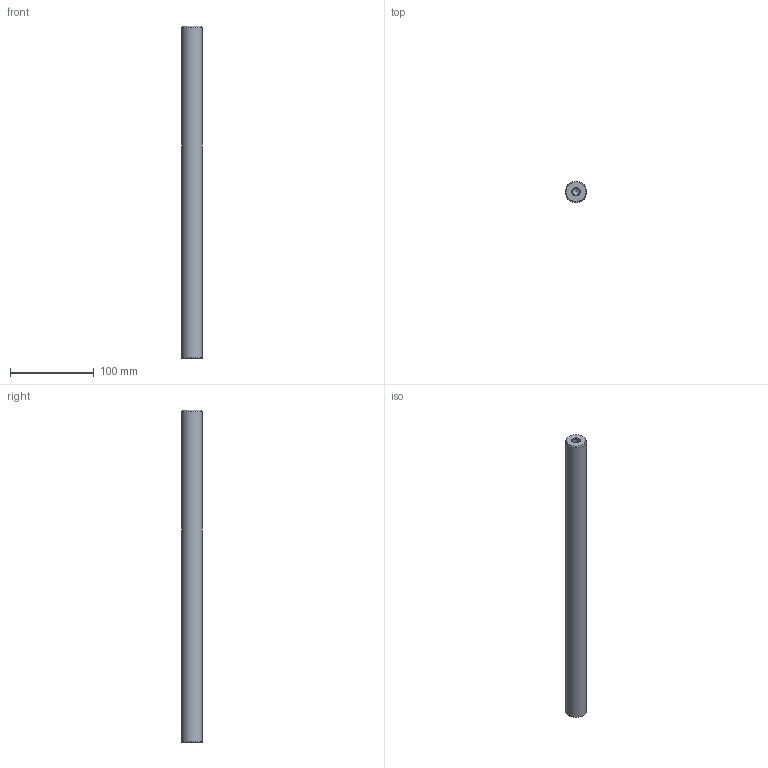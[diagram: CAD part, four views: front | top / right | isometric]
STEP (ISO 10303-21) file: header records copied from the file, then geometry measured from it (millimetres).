
FILE_DESCRIPTION( ( 'STEP AP214' ), '1' );
FILE_NAME( 'U:/Etudes/Top Solid/BIBLIO_Fournisseur/Colonnes UG/Ø25x396.step', '2004-12-22T12:43:56', ( ' ' ), ( ' ' ), 'XStep 1.0', ' ', ' ' );
FILE_SCHEMA( ( 'automotive_design' ) );
Length unit declared in the file: metre
Products named in the file (1): 1
Bounding box: 25 x 25 x 396 mm (x, y, z)
Volume: 191338.7 mm3; surface area: 33376.3 mm2
Topology: 1 solids, 1 shells, 13 faces, 27 edges, 16 vertices
Faces by surface type: cone 6, cylinder 5, plane 2
Full cylindrical faces by diameter (mm): 8.376 x4, 25 x1
Entity records: 382 total; most frequent: DIRECTION 52, CARTESIAN_POINT 40, AXIS2_PLACEMENT_3D 26, EDGE_LOOP 24, ORIENTED_EDGE 24, FACE_OUTER_BOUND 18, VERTEX_POINT 14, STYLED_ITEM 13
